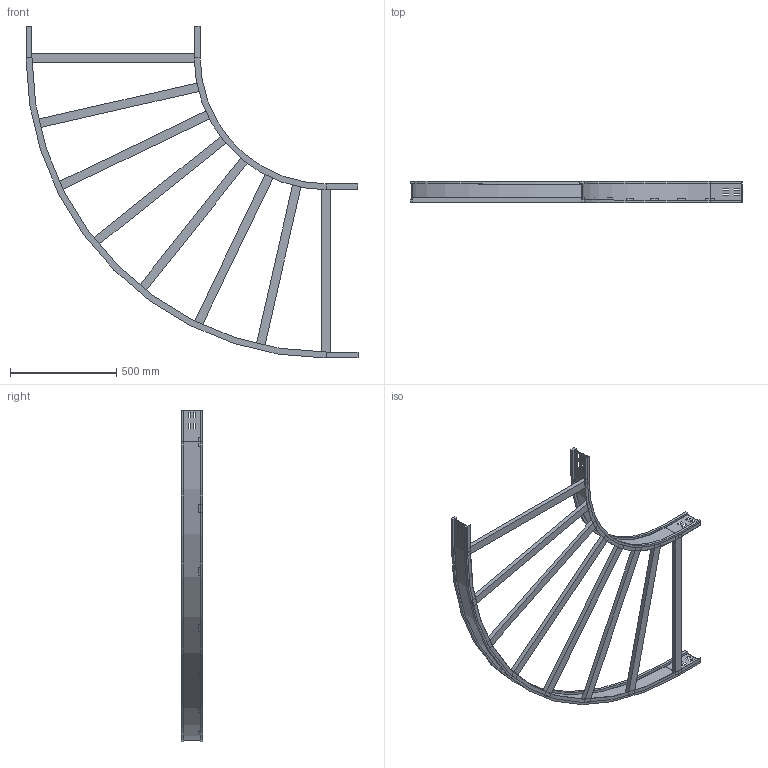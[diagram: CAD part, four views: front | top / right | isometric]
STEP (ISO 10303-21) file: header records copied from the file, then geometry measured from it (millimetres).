
FILE_DESCRIPTION (( 'STEP AP214' ), '1' );
FILE_NAME ('10S6D800.step', '2025-02-21T16:09:47', ( '' ), ( '' ), 'SwSTEP 2.0', 'SolidWorks 2023', '' );
FILE_SCHEMA (( 'AUTOMOTIVE_DESIGN' ));
Length unit declared in the file: millimetre
Products named in the file (4): LONGH.INTERNO 90°_H100_R600; LONGH.ESTERNO 90°_H100_R600+800; TRAVERSINO_800; 10S6D800
Assembly tree (10 placements, depth 2):
  10S6D800
    LONGH.INTERNO 90°_H100_R600
    LONGH.ESTERNO 90°_H100_R600+800
    TRAVERSINO_800  x8
Bounding box: 1559 x 100 x 1559 mm (x, y, z)
Volume: 7143139.5 mm3; surface area: 1892262 mm2
Topology: 10 solids, 10 shells, 188 faces, 456 edges, 288 vertices
Faces by surface type: plane 176, cylinder 12
Entity records: 4517 total; most frequent: CARTESIAN_POINT 763, ORIENTED_EDGE 744, DIRECTION 714, EDGE_CURVE 372, LINE 348, VECTOR 348, VERTEX_POINT 232, AXIS2_PLACEMENT_3D 183
